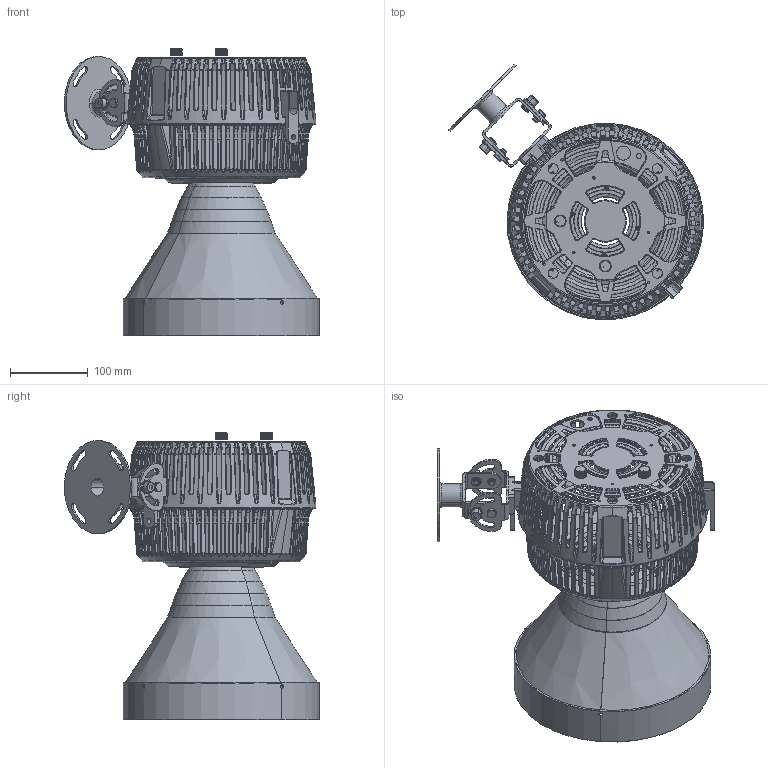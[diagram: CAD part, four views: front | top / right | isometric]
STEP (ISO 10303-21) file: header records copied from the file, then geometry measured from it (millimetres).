
FILE_DESCRIPTION (( 'STEP AP214' ), '1' );
FILE_NAME ('W2KS-PVT-Fixture.STEP', '2024-01-31T02:09:54', ( '' ), ( '' ), 'SwSTEP 2.0', 'SolidWorks 2022', '' );
FILE_SCHEMA (( 'AUTOMOTIVE_DESIGN' ));
Length unit declared in the file: millimetre
Products named in the file (18): PLATE_X3___; 5022497_X1_Single Arm Base___; 5022640_A1_Single Arm Axis, L=15mm___; REFLECTOR-15___; 5022530-2022-01-10___; 5022498_X1_Single Arm Pivot___; SCREW, M8 L8 CAP HEAD, HEX SOCKET, SUS, BLACK___; 5022499_X2_Single Arm Pivot Base___; REFLECTOR-15 COVER_X3_0531___; ID8,OD16,T1.5 WASHER___; 5022496_X2_Yoke Adapter___; PIVOT Mount___; 5022531_X1_BOTTOM HOUSING FOR W2K&A2K; 5022642_A2_C Circlip, ID=7.4mm___; REFLECTOR-15_X2_0530___; W2KS-PVT-Fixture; 5021926_A1_KNOB, 18T, OD=14.9, ID=6, L=10MM___; 5022646_X1_REFLECTOR-15___
Assembly tree (24 placements, depth 4):
  W2KS-PVT-Fixture
    5022531_X1_BOTTOM HOUSING FOR W2K&A2K
    5022496_X2_Yoke Adapter___  x2
    5022530-2022-01-10___
    5021926_A1_KNOB, 18T, OD=14.9, ID=6, L=10MM___  x2
    SCREW, M8 L8 CAP HEAD, HEX SOCKET, SUS, BLACK___
    PIVOT Mount___
      5022497_X1_Single Arm Base___
      5022498_X1_Single Arm Pivot___
      5022640_A1_Single Arm Axis, L=15mm___  x2
      5022642_A2_C Circlip, ID=7.4mm___  x2
      SCREW, M8 L8 CAP HEAD, HEX SOCKET, SUS, BLACK___  x2
      ID8,OD16,T1.5 WASHER___  x2
    5022499_X2_Single Arm Pivot Base___
    REFLECTOR-15___
      5022646_X1_REFLECTOR-15___
        REFLECTOR-15_X2_0530___
        REFLECTOR-15 COVER_X3_0531___
      PLATE_X3___
Bounding box: 328.3 x 328.3 x 370 mm (x, y, z)
Volume: 595606.8 mm3; surface area: 674548 mm2
Topology: 21 solids, 21 shells, 5724 faces, 15193 edges, 9319 vertices
Faces by surface type: bspline 2297, plane 1308, cylinder 1178, cone 472, torus 469
Entity records: 304084 total; most frequent: CARTESIAN_POINT 167657, ORIENTED_EDGE 27568, DIRECTION 18015, EDGE_CURVE 13784, VERTEX_POINT 8389, AXIS2_PLACEMENT_3D 7700, B_SPLINE_CURVE_WITH_KNOTS 6310, EDGE_LOOP 5461
